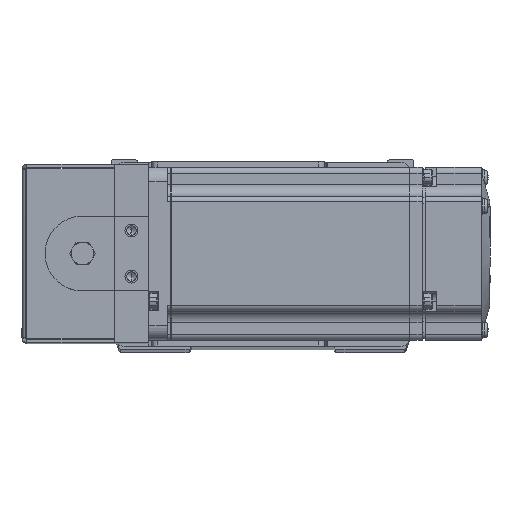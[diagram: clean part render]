
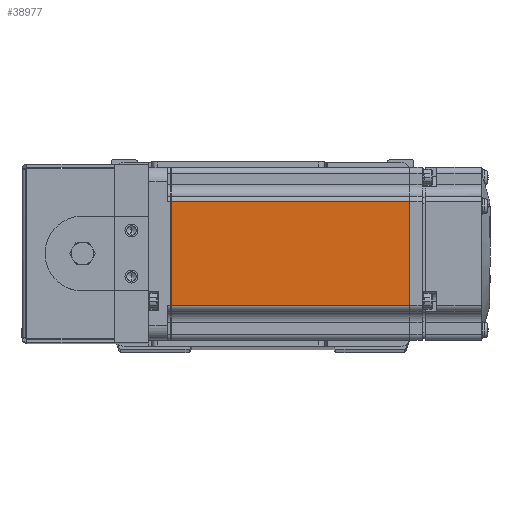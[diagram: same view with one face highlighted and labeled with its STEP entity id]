
A CAD part, top view. The second image highlights one B-rep face of the part: STEP entity #38977.
In plain terms, the highlighted planar face has unit normal (0, 0, 1) as drawn and (0, -1, 0) by its records, which use the part's own axes.
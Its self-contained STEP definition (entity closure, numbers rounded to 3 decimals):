
#1439 = VERTEX_POINT ( 'NONE', #21212 ) ;
#2757 = DIRECTION ( 'NONE',  ( 0., -1., 0. ) ) ;
#3136 = ORIENTED_EDGE ( 'NONE', *, *, #21155, .T. ) ;
#4823 = DIRECTION ( 'NONE',  ( -1., 0., 0. ) ) ;
#5317 = EDGE_CURVE ( 'NONE', #31666, #21307, #20517, .T. ) ;
#5565 = VECTOR ( 'NONE', #4823, 1000. ) ;
#8236 = VERTEX_POINT ( 'NONE', #13647 ) ;
#9716 = ORIENTED_EDGE ( 'NONE', *, *, #17094, .F. ) ;
#10517 = VECTOR ( 'NONE', #37880, 1000. ) ;
#10985 = EDGE_CURVE ( 'NONE', #8236, #1439, #30440, .T. ) ;
#13270 = LINE ( 'NONE', #28640, #10517 ) ;
#13647 = CARTESIAN_POINT ( 'NONE',  ( -7.75, -30., 18. ) ) ;
#14910 = VECTOR ( 'NONE', #39698, 1000. ) ;
#15078 = LINE ( 'NONE', #27407, #14910 ) ;
#17094 = EDGE_CURVE ( 'NONE', #8236, #31666, #15078, .T. ) ;
#17701 = VECTOR ( 'NONE', #24560, 1000. ) ;
#17853 = PLANE ( 'NONE',  #20591 ) ;
#18452 = FACE_OUTER_BOUND ( 'NONE', #36800, .T. ) ;
#20517 = LINE ( 'NONE', #23136, #5565 ) ;
#20591 = AXIS2_PLACEMENT_3D ( 'NONE', #30586, #2757, #30176 ) ;
#21155 = EDGE_CURVE ( 'NONE', #1439, #21307, #13270, .T. ) ;
#21212 = CARTESIAN_POINT ( 'NONE',  ( -90.45, -30., 18. ) ) ;
#21307 = VERTEX_POINT ( 'NONE', #26604 ) ;
#23136 = CARTESIAN_POINT ( 'NONE',  ( -6.5, -30., -18. ) ) ;
#24560 = DIRECTION ( 'NONE',  ( -1., 0., 0. ) ) ;
#26604 = CARTESIAN_POINT ( 'NONE',  ( -90.45, -30., -18. ) ) ;
#26884 = ORIENTED_EDGE ( 'NONE', *, *, #5317, .F. ) ;
#26966 = ORIENTED_EDGE ( 'NONE', *, *, #10985, .T. ) ;
#27407 = CARTESIAN_POINT ( 'NONE',  ( -7.75, -30., 0. ) ) ;
#28640 = CARTESIAN_POINT ( 'NONE',  ( -90.45, -30., 0. ) ) ;
#30176 = DIRECTION ( 'NONE',  ( 0., 0., -1. ) ) ;
#30440 = LINE ( 'NONE', #36685, #17701 ) ;
#30586 = CARTESIAN_POINT ( 'NONE',  ( -6.5, -30., -25. ) ) ;
#31666 = VERTEX_POINT ( 'NONE', #34006 ) ;
#34006 = CARTESIAN_POINT ( 'NONE',  ( -7.75, -30., -18. ) ) ;
#36685 = CARTESIAN_POINT ( 'NONE',  ( -6.5, -30., 18. ) ) ;
#36800 = EDGE_LOOP ( 'NONE', ( #9716, #26966, #3136, #26884 ) ) ;
#37880 = DIRECTION ( 'NONE',  ( 0., 0., -1. ) ) ;
#38977 = ADVANCED_FACE ( 'NONE', ( #18452 ), #17853, .T. ) ;
#39698 = DIRECTION ( 'NONE',  ( 0., 0., -1. ) ) ;
